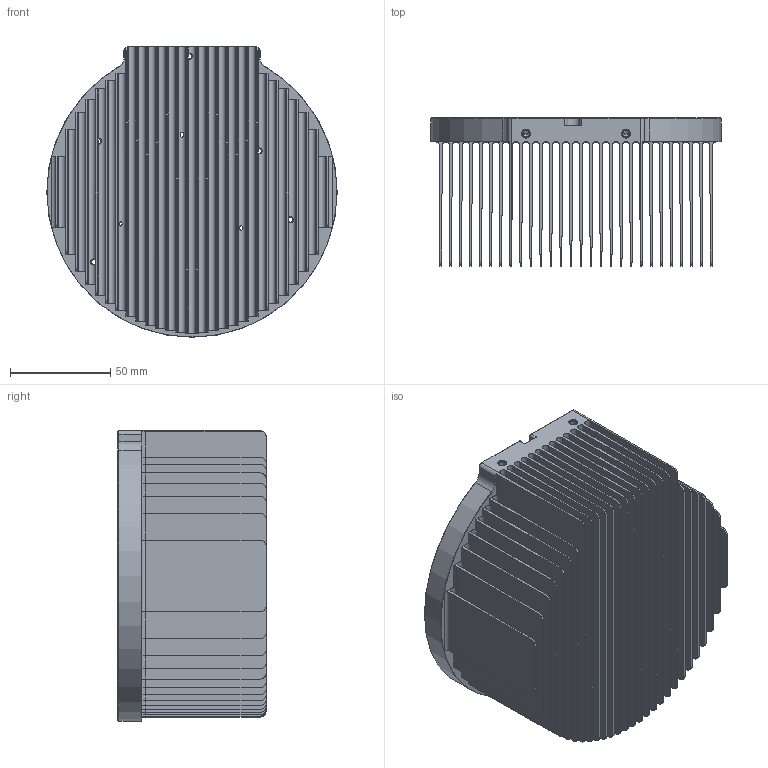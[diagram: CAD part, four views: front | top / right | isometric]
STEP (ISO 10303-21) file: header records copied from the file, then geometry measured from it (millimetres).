
FILE_DESCRIPTION((''),'2;1');
FILE_NAME('13KW_HVAC_SRQ','2023-02-22T22:58:28',('Bright.Z'),('Amoisonic Co.'),'CREO PARAMETRIC BY PTC INC, 2019080','CREO PARAMETRIC BY PTC INC, 2019080','');
FILE_SCHEMA(('CONFIG_CONTROL_DESIGN'));
Length unit declared in the file: millimetre
Products named in the file (1): 13KW_HVAC_SRQ
Bounding box: 145 x 74 x 145 mm (x, y, z)
Volume: 426346.4 mm3; surface area: 431403.9 mm2
Topology: 1 solids, 11 shells, 532 faces, 1471 edges, 944 vertices
Faces by surface type: plane 271, cylinder 205, cone 56
Entity records: 17482 total; most frequent: CARTESIAN_POINT 3979, ORIENTED_EDGE 2864, DIRECTION 2725, EDGE_CURVE 1467, VERTEX_POINT 944, AXIS2_PLACEMENT_3D 924, VECTOR 877, LINE 877
